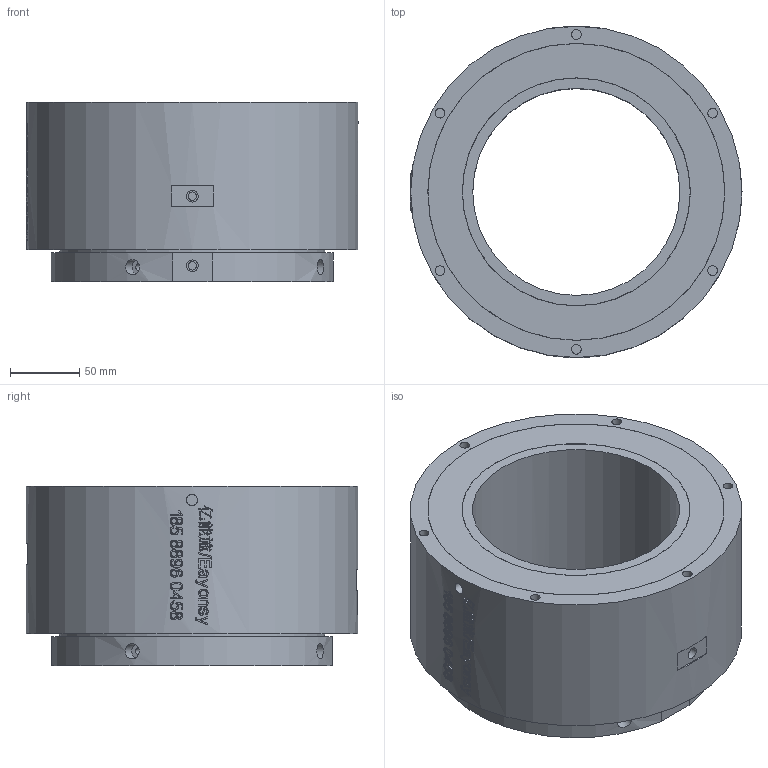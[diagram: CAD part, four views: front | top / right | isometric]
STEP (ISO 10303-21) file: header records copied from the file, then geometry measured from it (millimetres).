
FILE_DESCRIPTION(/* description */ (''),/* implementation_level */ '2;1');
FILE_NAME(/* name */ 'HQ0201D150.stp',/* time_stamp */ '2025-01-19T15:26:11+08:00',/* author */ (''),/* organization */ (''),/* preprocessor_version */ 'ST-DEVELOPER v16.7',/* originating_system */ 'SIEMENS PLM Software NX 12.0',/* authorisation */ '');
FILE_SCHEMA (('AUTOMOTIVE_DESIGN { 1 0 10303 214 3 1 1 1 }'));
Length unit declared in the file: millimetre
Products named in the file (1): HX05089CE4B9bep5
Bounding box: 240.48 x 240 x 130 mm (x, y, z)
Volume: 3275922.9 mm3; surface area: 238507.9 mm2
Topology: 1 solids, 1 shells, 409 faces, 986 edges, 659 vertices
Faces by surface type: plane 230, extrusion 93, cylinder 57, bspline 29
Full cylindrical faces by diameter (mm): 5 x4, 6 x4, 7 x12, 7.2 x2, 8 x2, 8.5 x4, 11 x4, 150 x1, 165 x1, 165.2 x1, 192 x1, 215 x1, 215.2 x1, 240 x1
Entity records: 30659 total; most frequent: CARTESIAN_POINT 22296, ORIENTED_EDGE 1866, DIRECTION 1209, EDGE_CURVE 933, B_SPLINE_CURVE_WITH_KNOTS 692, VERTEX_POINT 658, EDGE_LOOP 551, AXIS2_PLACEMENT_3D 494
